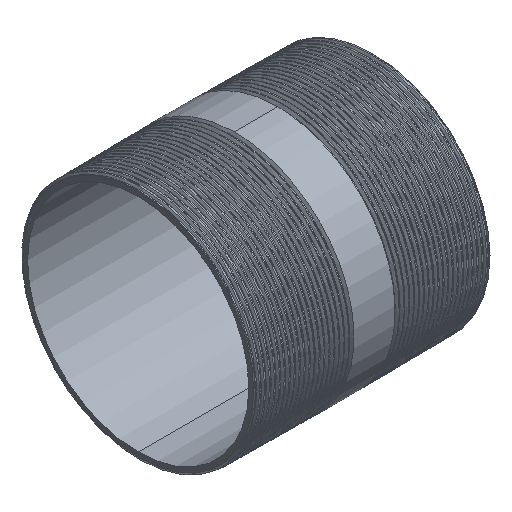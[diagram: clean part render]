
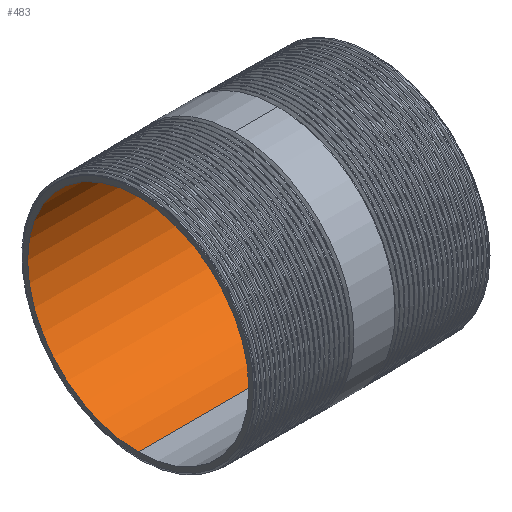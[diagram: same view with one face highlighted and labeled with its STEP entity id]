
A CAD part, isometric view. The second image highlights one B-rep face of the part: STEP entity #483.
In plain terms, the highlighted cylindrical face has radius 28.15 mm (diameter 56.3 mm), a partial arc.
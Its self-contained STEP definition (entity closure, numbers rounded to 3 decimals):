
#19 = EDGE_CURVE ( 'NONE', #4554, #9898, #16717, .T. ) ;
#172 = CARTESIAN_POINT ( 'NONE',  ( 30., 0., -28.15 ) ) ;
#483 = ADVANCED_FACE ( 'NONE', ( #3695 ), #16014, .F. ) ;
#588 = AXIS2_PLACEMENT_3D ( 'NONE', #6287, #17492, #17671 ) ;
#897 = DIRECTION ( 'NONE',  ( -1., 0., 0. ) ) ;
#1727 = ORIENTED_EDGE ( 'NONE', *, *, #5933, .F. ) ;
#2225 = VECTOR ( 'NONE', #16612, 1000. ) ;
#3695 = FACE_OUTER_BOUND ( 'NONE', #8837, .T. ) ;
#3705 = VERTEX_POINT ( 'NONE', #8855 ) ;
#4554 = VERTEX_POINT ( 'NONE', #172 ) ;
#5347 = ORIENTED_EDGE ( 'NONE', *, *, #10895, .T. ) ;
#5933 = EDGE_CURVE ( 'NONE', #14828, #4554, #9531, .T. ) ;
#6287 = CARTESIAN_POINT ( 'NONE',  ( -149.494, 0., 0. ) ) ;
#6555 = DIRECTION ( 'NONE',  ( 0., 0., 1. ) ) ;
#6959 = CARTESIAN_POINT ( 'NONE',  ( 30., 0., 0. ) ) ;
#7406 = VECTOR ( 'NONE', #13122, 1000. ) ;
#8014 = LINE ( 'NONE', #13491, #2225 ) ;
#8118 = CIRCLE ( 'NONE', #10481, 28.15 ) ;
#8262 = DIRECTION ( 'NONE',  ( -1., 0., 0. ) ) ;
#8837 = EDGE_LOOP ( 'NONE', ( #16383, #1727, #5347, #18192 ) ) ;
#8855 = CARTESIAN_POINT ( 'NONE',  ( -30., 0., 28.15 ) ) ;
#9531 = CIRCLE ( 'NONE', #12199, 28.15 ) ;
#9687 = CARTESIAN_POINT ( 'NONE',  ( -30., 0., -28.15 ) ) ;
#9898 = VERTEX_POINT ( 'NONE', #9687 ) ;
#10145 = CARTESIAN_POINT ( 'NONE',  ( -149.494, 0., -28.15 ) ) ;
#10481 = AXIS2_PLACEMENT_3D ( 'NONE', #13609, #897, #6555 ) ;
#10895 = EDGE_CURVE ( 'NONE', #14828, #3705, #8014, .T. ) ;
#11127 = DIRECTION ( 'NONE',  ( 0., 0., 1. ) ) ;
#12199 = AXIS2_PLACEMENT_3D ( 'NONE', #6959, #8262, #11127 ) ;
#13122 = DIRECTION ( 'NONE',  ( -1., 0., 0. ) ) ;
#13491 = CARTESIAN_POINT ( 'NONE',  ( -149.494, 0., 28.15 ) ) ;
#13609 = CARTESIAN_POINT ( 'NONE',  ( -30., 0., 0. ) ) ;
#14828 = VERTEX_POINT ( 'NONE', #16636 ) ;
#15961 = EDGE_CURVE ( 'NONE', #3705, #9898, #8118, .T. ) ;
#16014 = CYLINDRICAL_SURFACE ( 'NONE', #588, 28.15 ) ;
#16383 = ORIENTED_EDGE ( 'NONE', *, *, #19, .F. ) ;
#16612 = DIRECTION ( 'NONE',  ( -1., 0., 0. ) ) ;
#16636 = CARTESIAN_POINT ( 'NONE',  ( 30., 0., 28.15 ) ) ;
#16717 = LINE ( 'NONE', #10145, #7406 ) ;
#17492 = DIRECTION ( 'NONE',  ( -1., 0., 0. ) ) ;
#17671 = DIRECTION ( 'NONE',  ( 0., 0., 1. ) ) ;
#18192 = ORIENTED_EDGE ( 'NONE', *, *, #15961, .T. ) ;
